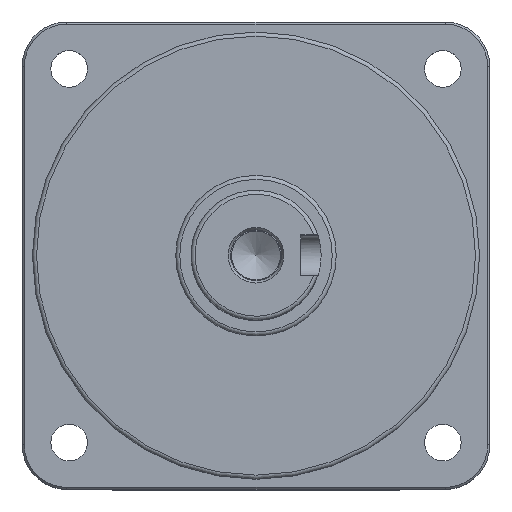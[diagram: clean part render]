
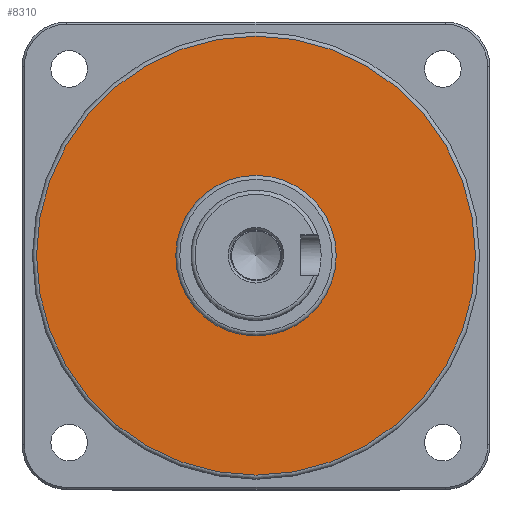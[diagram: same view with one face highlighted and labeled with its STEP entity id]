
A CAD part, top view. The second image highlights one B-rep face of the part: STEP entity #8310.
In plain terms, the highlighted planar face has unit normal (0, 0, 1) as drawn and (0, 0, -1) by its records, which use the part's own axes.
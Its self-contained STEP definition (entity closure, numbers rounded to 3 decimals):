
#8279=CARTESIAN_POINT('',(54.0,0.,53.));
#8280=VERTEX_POINT('',#8279);
#8281=CARTESIAN_POINT('',(0.0,0.0,53.));
#8282=DIRECTION('',(0.0,0.0,1.0));
#8283=DIRECTION('',(-1.0,0.0,0.0));
#8284=AXIS2_PLACEMENT_3D('',#8281,#8282,#8283);
#8285=CIRCLE('',#8284,54.0);
#8286=EDGE_CURVE('',#8280,#8280,#8285,.T.);
#8291=CARTESIAN_POINT('',(0.0,0.0,53.));
#8292=DIRECTION('',(0.0,0.0,-1.0));
#8293=DIRECTION('',(-1.0,0.0,0.0));
#8294=AXIS2_PLACEMENT_3D('',#8291,#8292,#8293);
#8295=PLANE('',#8294);
#8296=ORIENTED_EDGE('',*,*,#8286,.F.);
#8297=EDGE_LOOP('',(#8296));
#8298=FACE_OUTER_BOUND('',#8297,.T.);
#8299=CARTESIAN_POINT('',(19.75,0.,53.));
#8300=VERTEX_POINT('',#8299);
#8301=CARTESIAN_POINT('',(0.0,0.0,53.));
#8302=DIRECTION('',(0.0,0.0,-1.0));
#8303=DIRECTION('',(-1.0,0.0,0.0));
#8304=AXIS2_PLACEMENT_3D('',#8301,#8302,#8303);
#8305=CIRCLE('',#8304,19.75);
#8306=EDGE_CURVE('',#8300,#8300,#8305,.T.);
#8307=ORIENTED_EDGE('',*,*,#8306,.F.);
#8308=EDGE_LOOP('',(#8307));
#8309=FACE_BOUND('',#8308,.T.);
#8310=ADVANCED_FACE('',(#8298,#8309),#8295,.T.);
